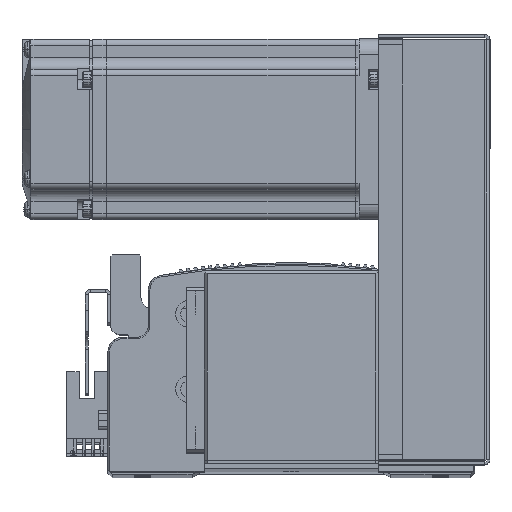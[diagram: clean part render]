
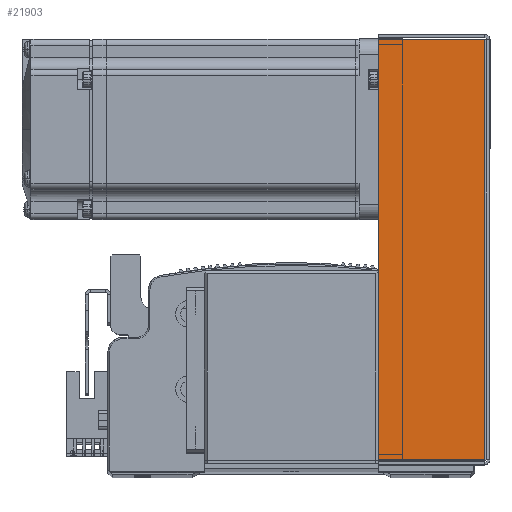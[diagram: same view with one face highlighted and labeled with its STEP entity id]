
A CAD part, top view. The second image highlights one B-rep face of the part: STEP entity #21903.
In plain terms, the highlighted planar face has unit normal (0, 0, 1) as drawn and (0, 0, -1) by its records, which use the part's own axes.
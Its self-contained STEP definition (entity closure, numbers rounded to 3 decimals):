
#8048 = EDGE_CURVE ( 'NONE', #19013, #19163, #56737, .T. ) ;
#8065 = EDGE_CURVE ( 'NONE', #18991, #19163, #56775, .T. ) ;
#8070 = EDGE_CURVE ( 'NONE', #19016, #19013, #56769, .T. ) ;
#8100 = EDGE_CURVE ( 'NONE', #19016, #18991, #56823, .T. ) ;
#18991 = VERTEX_POINT ( 'NONE', #51253 ) ;
#19013 = VERTEX_POINT ( 'NONE', #51375 ) ;
#19016 = VERTEX_POINT ( 'NONE', #51354 ) ;
#19163 = VERTEX_POINT ( 'NONE', #51547 ) ;
#21903 = ADVANCED_FACE ( 'NONE', ( #39710 ), #46594, .F. ) ;
#39710 = FACE_OUTER_BOUND ( 'NONE', #65361, .T. ) ;
#46562 = CARTESIAN_POINT ( 'NONE',  ( 0., 0., -33.5 ) ) ;
#46567 = DIRECTION ( 'NONE',  ( 0., 0., 1. ) ) ;
#46594 = PLANE ( 'NONE',  #48213 ) ;
#46600 = DIRECTION ( 'NONE',  ( 0., -1., 0. ) ) ;
#48213 = AXIS2_PLACEMENT_3D ( 'NONE', #46562, #46567, #46600 ) ;
#51253 = CARTESIAN_POINT ( 'NONE',  ( -69.793, 36., -33.5 ) ) ;
#51354 = CARTESIAN_POINT ( 'NONE',  ( -69.793, 0.737, -33.5 ) ) ;
#51375 = CARTESIAN_POINT ( 'NONE',  ( 69.793, 0.737, -33.5 ) ) ;
#51547 = CARTESIAN_POINT ( 'NONE',  ( 69.793, 36., -33.5 ) ) ;
#56719 = VECTOR ( 'NONE', #74023, 1000. ) ;
#56737 = LINE ( 'NONE', #74009, #56719 ) ;
#56757 = VECTOR ( 'NONE', #74030, 1000. ) ;
#56769 = LINE ( 'NONE', #74091, #56782 ) ;
#56775 = LINE ( 'NONE', #74056, #56757 ) ;
#56782 = VECTOR ( 'NONE', #74077, 1000. ) ;
#56823 = LINE ( 'NONE', #82598, #56824 ) ;
#56824 = VECTOR ( 'NONE', #82584, 1000. ) ;
#65361 = EDGE_LOOP ( 'NONE', ( #79713, #79895, #79896, #79677 ) ) ;
#74009 = CARTESIAN_POINT ( 'NONE',  ( 69.793, 0., -33.5 ) ) ;
#74023 = DIRECTION ( 'NONE',  ( 0., 1., 0. ) ) ;
#74030 = DIRECTION ( 'NONE',  ( 1., 0., 0. ) ) ;
#74056 = CARTESIAN_POINT ( 'NONE',  ( 0., 36., -33.5 ) ) ;
#74077 = DIRECTION ( 'NONE',  ( 1., 0., 0. ) ) ;
#74091 = CARTESIAN_POINT ( 'NONE',  ( 71.5, 0.737, -33.5 ) ) ;
#79677 = ORIENTED_EDGE ( 'NONE', *, *, #8048, .F. ) ;
#79713 = ORIENTED_EDGE ( 'NONE', *, *, #8070, .F. ) ;
#79895 = ORIENTED_EDGE ( 'NONE', *, *, #8100, .T. ) ;
#79896 = ORIENTED_EDGE ( 'NONE', *, *, #8065, .T. ) ;
#82584 = DIRECTION ( 'NONE',  ( 0., 1., 0. ) ) ;
#82598 = CARTESIAN_POINT ( 'NONE',  ( -69.793, 0., -33.5 ) ) ;
